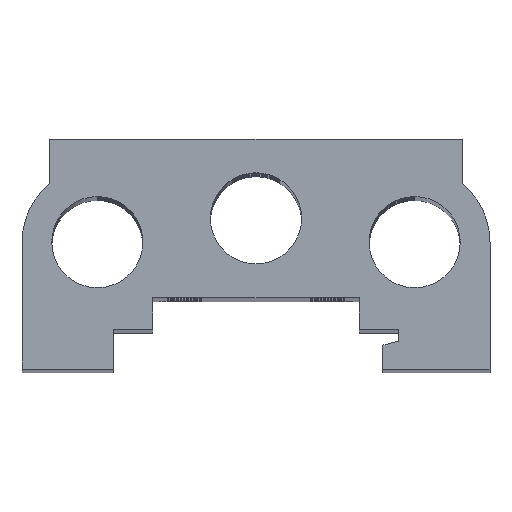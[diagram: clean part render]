
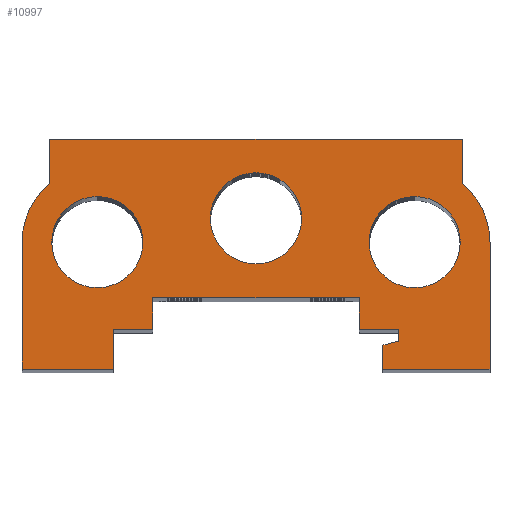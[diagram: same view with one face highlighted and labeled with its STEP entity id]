
A CAD part, top view. The second image highlights one B-rep face of the part: STEP entity #10997.
In plain terms, the highlighted planar face has unit normal (0, 0, 1).
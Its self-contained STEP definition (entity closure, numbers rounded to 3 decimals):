
#9883=CARTESIAN_POINT('',(25.75,16.0,284.0));
#9884=VERTEX_POINT('',#9883);
#9885=CARTESIAN_POINT('',(20.0,16.0,284.0));
#9886=DIRECTION('',(0.0,0.0,-1.0));
#9887=DIRECTION('',(-1.0,0.0,0.0));
#9888=AXIS2_PLACEMENT_3D('',#9885,#9886,#9887);
#9889=CIRCLE('',#9888,5.75);
#9890=EDGE_CURVE('',#9884,#9884,#9889,.T.);
#9951=CARTESIAN_POINT('',(5.75,19.0,284.0));
#9952=VERTEX_POINT('',#9951);
#9953=CARTESIAN_POINT('',(0.0,19.0,284.0));
#9954=DIRECTION('',(0.0,0.0,-1.0));
#9955=DIRECTION('',(-1.0,0.0,0.0));
#9956=AXIS2_PLACEMENT_3D('',#9953,#9954,#9955);
#9957=CIRCLE('',#9956,5.75);
#9958=EDGE_CURVE('',#9952,#9952,#9957,.T.);
#10009=CARTESIAN_POINT('',(-14.25,16.0,284.0));
#10010=VERTEX_POINT('',#10009);
#10011=CARTESIAN_POINT('',(-20.0,16.0,284.0));
#10012=DIRECTION('',(0.0,0.0,-1.0));
#10013=DIRECTION('',(-1.0,0.0,0.0));
#10014=AXIS2_PLACEMENT_3D('',#10011,#10012,#10013);
#10015=CIRCLE('',#10014,5.75);
#10016=EDGE_CURVE('',#10010,#10010,#10015,.T.);
#10077=CARTESIAN_POINT('',(-29.5,16.,284.0));
#10078=VERTEX_POINT('',#10077);
#10079=CARTESIAN_POINT('',(-26.,23.365,284.0));
#10080=VERTEX_POINT('',#10079);
#10081=CARTESIAN_POINT('',(-20.0,16.0,284.0));
#10082=DIRECTION('',(0.0,0.0,-1.0));
#10083=DIRECTION('',(-0.632,0.775,0.0));
#10084=AXIS2_PLACEMENT_3D('',#10081,#10082,#10083);
#10085=CIRCLE('',#10084,9.5);
#10086=EDGE_CURVE('',#10078,#10080,#10085,.T.);
#10119=CARTESIAN_POINT('',(-26.,29.,284.0));
#10120=VERTEX_POINT('',#10119);
#10121=CARTESIAN_POINT('',(-26.,23.365,284.0));
#10122=DIRECTION('',(0.0,1.0,0.0));
#10123=VECTOR('',#10122,5.635);
#10124=LINE('',#10121,#10123);
#10125=EDGE_CURVE('',#10080,#10120,#10124,.T.);
#10150=CARTESIAN_POINT('',(26.,29.,284.0));
#10151=VERTEX_POINT('',#10150);
#10152=CARTESIAN_POINT('',(-26.,29.,284.0));
#10153=DIRECTION('',(1.0,0.0,0.0));
#10154=VECTOR('',#10153,52.);
#10155=LINE('',#10152,#10154);
#10156=EDGE_CURVE('',#10120,#10151,#10155,.T.);
#10403=CARTESIAN_POINT('',(26.0,23.365,284.0));
#10404=VERTEX_POINT('',#10403);
#10405=CARTESIAN_POINT('',(26.,29.,284.0));
#10406=DIRECTION('',(0.0,-1.0,0.0));
#10407=VECTOR('',#10406,5.635);
#10408=LINE('',#10405,#10407);
#10409=EDGE_CURVE('',#10151,#10404,#10408,.T.);
#10434=CARTESIAN_POINT('',(29.5,16.0,284.0));
#10435=VERTEX_POINT('',#10434);
#10436=CARTESIAN_POINT('',(20.0,16.0,284.0));
#10437=DIRECTION('',(0.0,0.0,-1.0));
#10438=DIRECTION('',(1.0,0.0,0.0));
#10439=AXIS2_PLACEMENT_3D('',#10436,#10437,#10438);
#10440=CIRCLE('',#10439,9.5);
#10441=EDGE_CURVE('',#10404,#10435,#10440,.T.);
#10467=CARTESIAN_POINT('',(29.5,0.0,284.0));
#10468=VERTEX_POINT('',#10467);
#10469=CARTESIAN_POINT('',(29.5,16.0,284.0));
#10470=DIRECTION('',(0.0,-1.0,0.0));
#10471=VECTOR('',#10470,16.0);
#10472=LINE('',#10469,#10471);
#10473=EDGE_CURVE('',#10435,#10468,#10472,.T.);
#10498=CARTESIAN_POINT('',(16.,0.0,284.0));
#10499=VERTEX_POINT('',#10498);
#10500=CARTESIAN_POINT('',(29.5,0.0,284.0));
#10501=DIRECTION('',(-1.0,0.0,0.0));
#10502=VECTOR('',#10501,13.5);
#10503=LINE('',#10500,#10502);
#10504=EDGE_CURVE('',#10468,#10499,#10503,.T.);
#10529=CARTESIAN_POINT('',(16.,3.,284.0));
#10530=VERTEX_POINT('',#10529);
#10531=CARTESIAN_POINT('',(16.,0.0,284.0));
#10532=DIRECTION('',(0.0,1.0,0.0));
#10533=VECTOR('',#10532,3.);
#10534=LINE('',#10531,#10533);
#10535=EDGE_CURVE('',#10499,#10530,#10534,.T.);
#10560=CARTESIAN_POINT('',(18.0,3.536,284.0));
#10561=VERTEX_POINT('',#10560);
#10562=CARTESIAN_POINT('',(16.,3.,284.0));
#10563=DIRECTION('',(0.966,0.259,0.0));
#10564=VECTOR('',#10563,2.071);
#10565=LINE('',#10562,#10564);
#10566=EDGE_CURVE('',#10530,#10561,#10565,.T.);
#10591=CARTESIAN_POINT('',(18.,5.0,284.0));
#10592=VERTEX_POINT('',#10591);
#10593=CARTESIAN_POINT('',(18.0,3.536,284.0));
#10594=DIRECTION('',(0.0,1.0,0.0));
#10595=VECTOR('',#10594,1.464);
#10596=LINE('',#10593,#10595);
#10597=EDGE_CURVE('',#10561,#10592,#10596,.T.);
#10622=CARTESIAN_POINT('',(13.0,5.0,284.0));
#10623=VERTEX_POINT('',#10622);
#10624=CARTESIAN_POINT('',(18.,5.0,284.0));
#10625=DIRECTION('',(-1.0,0.0,0.0));
#10626=VECTOR('',#10625,5.);
#10627=LINE('',#10624,#10626);
#10628=EDGE_CURVE('',#10592,#10623,#10627,.T.);
#10653=CARTESIAN_POINT('',(13.0,9.0,284.0));
#10654=VERTEX_POINT('',#10653);
#10655=CARTESIAN_POINT('',(13.0,5.0,284.0));
#10656=DIRECTION('',(0.0,1.0,0.0));
#10657=VECTOR('',#10656,4.0);
#10658=LINE('',#10655,#10657);
#10659=EDGE_CURVE('',#10623,#10654,#10658,.T.);
#10684=CARTESIAN_POINT('',(-13.0,9.0,284.0));
#10685=VERTEX_POINT('',#10684);
#10686=CARTESIAN_POINT('',(13.0,9.0,284.0));
#10687=DIRECTION('',(-1.0,0.0,0.0));
#10688=VECTOR('',#10687,26.0);
#10689=LINE('',#10686,#10688);
#10690=EDGE_CURVE('',#10654,#10685,#10689,.T.);
#10787=CARTESIAN_POINT('',(-13.0,5.0,284.0));
#10788=VERTEX_POINT('',#10787);
#10789=CARTESIAN_POINT('',(-13.0,9.0,284.0));
#10790=DIRECTION('',(0.0,-1.0,0.0));
#10791=VECTOR('',#10790,4.0);
#10792=LINE('',#10789,#10791);
#10793=EDGE_CURVE('',#10685,#10788,#10792,.T.);
#10818=CARTESIAN_POINT('',(-18.0,5.0,284.0));
#10819=VERTEX_POINT('',#10818);
#10820=CARTESIAN_POINT('',(-13.0,5.0,284.0));
#10821=DIRECTION('',(-1.0,0.0,0.0));
#10822=VECTOR('',#10821,5.0);
#10823=LINE('',#10820,#10822);
#10824=EDGE_CURVE('',#10788,#10819,#10823,.T.);
#10849=CARTESIAN_POINT('',(-18.0,0.0,284.0));
#10850=VERTEX_POINT('',#10849);
#10851=CARTESIAN_POINT('',(-18.0,5.0,284.0));
#10852=DIRECTION('',(0.0,-1.0,0.0));
#10853=VECTOR('',#10852,5.0);
#10854=LINE('',#10851,#10853);
#10855=EDGE_CURVE('',#10819,#10850,#10854,.T.);
#10880=CARTESIAN_POINT('',(-29.5,0.0,284.0));
#10881=VERTEX_POINT('',#10880);
#10882=CARTESIAN_POINT('',(-18.0,0.0,284.0));
#10883=DIRECTION('',(-1.0,0.0,0.0));
#10884=VECTOR('',#10883,11.5);
#10885=LINE('',#10882,#10884);
#10886=EDGE_CURVE('',#10850,#10881,#10885,.T.);
#10911=CARTESIAN_POINT('',(-29.5,0.0,284.0));
#10912=DIRECTION('',(0.0,1.0,0.0));
#10913=VECTOR('',#10912,16.);
#10914=LINE('',#10911,#10913);
#10915=EDGE_CURVE('',#10881,#10078,#10914,.T.);
#10963=CARTESIAN_POINT('',(0.278,14.351,284.0));
#10964=DIRECTION('',(0.0,0.0,1.0));
#10965=DIRECTION('',(1.0,0.0,0.0));
#10966=AXIS2_PLACEMENT_3D('',#10963,#10964,#10965);
#10967=PLANE('',#10966);
#10968=ORIENTED_EDGE('',*,*,#10086,.F.);
#10969=ORIENTED_EDGE('',*,*,#10915,.F.);
#10970=ORIENTED_EDGE('',*,*,#10886,.F.);
#10971=ORIENTED_EDGE('',*,*,#10855,.F.);
#10972=ORIENTED_EDGE('',*,*,#10824,.F.);
#10973=ORIENTED_EDGE('',*,*,#10793,.F.);
#10974=ORIENTED_EDGE('',*,*,#10690,.F.);
#10975=ORIENTED_EDGE('',*,*,#10659,.F.);
#10976=ORIENTED_EDGE('',*,*,#10628,.F.);
#10977=ORIENTED_EDGE('',*,*,#10597,.F.);
#10978=ORIENTED_EDGE('',*,*,#10566,.F.);
#10979=ORIENTED_EDGE('',*,*,#10535,.F.);
#10980=ORIENTED_EDGE('',*,*,#10504,.F.);
#10981=ORIENTED_EDGE('',*,*,#10473,.F.);
#10982=ORIENTED_EDGE('',*,*,#10441,.F.);
#10983=ORIENTED_EDGE('',*,*,#10409,.F.);
#10984=ORIENTED_EDGE('',*,*,#10156,.F.);
#10985=ORIENTED_EDGE('',*,*,#10125,.F.);
#10986=EDGE_LOOP('',(#10968,#10969,#10970,#10971,#10972,#10973,#10974,#10975,#10976,#10977,#10978,#10979,#10980,#10981,#10982,#10983,#10984,#10985));
#10987=FACE_OUTER_BOUND('',#10986,.T.);
#10988=ORIENTED_EDGE('',*,*,#9890,.T.);
#10989=EDGE_LOOP('',(#10988));
#10990=FACE_BOUND('',#10989,.T.);
#10991=ORIENTED_EDGE('',*,*,#9958,.T.);
#10992=EDGE_LOOP('',(#10991));
#10993=FACE_BOUND('',#10992,.T.);
#10994=ORIENTED_EDGE('',*,*,#10016,.T.);
#10995=EDGE_LOOP('',(#10994));
#10996=FACE_BOUND('',#10995,.T.);
#10997=ADVANCED_FACE('',(#10987,#10990,#10993,#10996),#10967,.T.);
